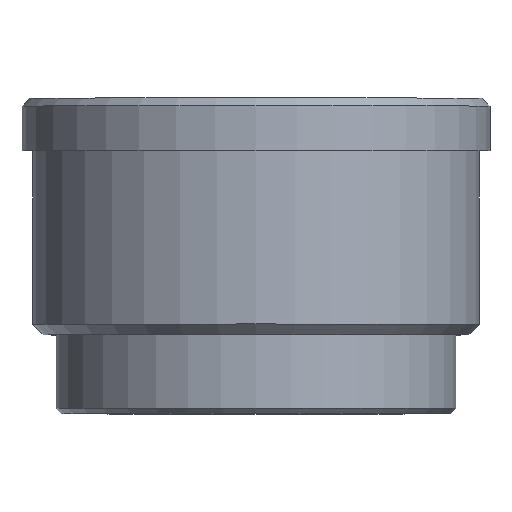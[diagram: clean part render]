
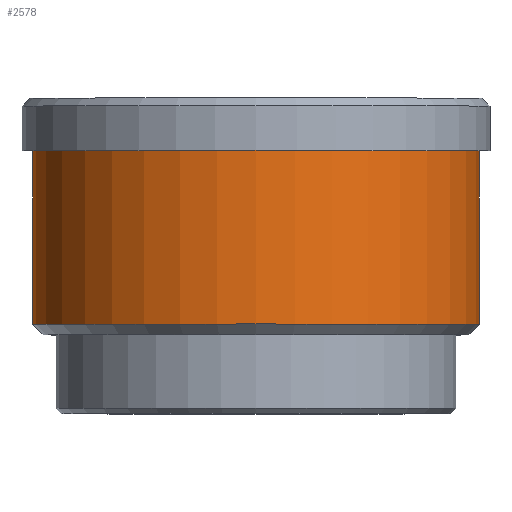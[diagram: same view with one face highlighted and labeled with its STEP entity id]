
A CAD part, top view. The second image highlights one B-rep face of the part: STEP entity #2578.
In plain terms, the highlighted cylindrical face has radius 42.5 mm (diameter 85 mm), a full revolution.
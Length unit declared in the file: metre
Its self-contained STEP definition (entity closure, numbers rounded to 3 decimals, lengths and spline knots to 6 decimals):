
#2578=ADVANCED_FACE('',(#4567,#4568),#4569,.T.);
#4567=FACE_OUTER_BOUND('',#8867,.T.);
#4568=FACE_OUTER_BOUND('',#8868,.T.);
#4569=CYLINDRICAL_SURFACE('',#8869,0.0425);
#8867=EDGE_LOOP('',(#11588));
#8868=EDGE_LOOP('',(#11589));
#8869=AXIS2_PLACEMENT_3D('',#11590,#11591,#11592);
#11588=ORIENTED_EDGE('',*,*,#11942,.T.);
#11589=ORIENTED_EDGE('',*,*,#11946,.F.);
#11590=CARTESIAN_POINT('',(0.166526,-0.031595,0.0));
#11591=DIRECTION('',(-0.0,1.0,-0.0));
#11592=DIRECTION('',(0.0,0.0,-1.0));
#11942=EDGE_CURVE('',#12113,#12113,#12114,.T.);
#11946=EDGE_CURVE('',#12119,#12119,#12120,.T.);
#12113=VERTEX_POINT('',#12386);
#12114=CIRCLE('',#12387,0.0425);
#12119=VERTEX_POINT('',#12392);
#12120=CIRCLE('',#12393,0.0425);
#12386=CARTESIAN_POINT('',(0.166526,-0.043004,-0.0425));
#12387=AXIS2_PLACEMENT_3D('',#12546,#12547,#12548);
#12392=CARTESIAN_POINT('',(0.166526,-0.076004,-0.0425));
#12393=AXIS2_PLACEMENT_3D('',#12552,#12553,#12554);
#12546=CARTESIAN_POINT('',(0.166526,-0.043004,0.0));
#12547=DIRECTION('',(0.0,-1.0,0.0));
#12548=DIRECTION('',(0.0,0.0,-1.0));
#12552=CARTESIAN_POINT('',(0.166526,-0.076004,0.0));
#12553=DIRECTION('',(0.0,-1.0,0.0));
#12554=DIRECTION('',(0.0,0.0,-1.0));
